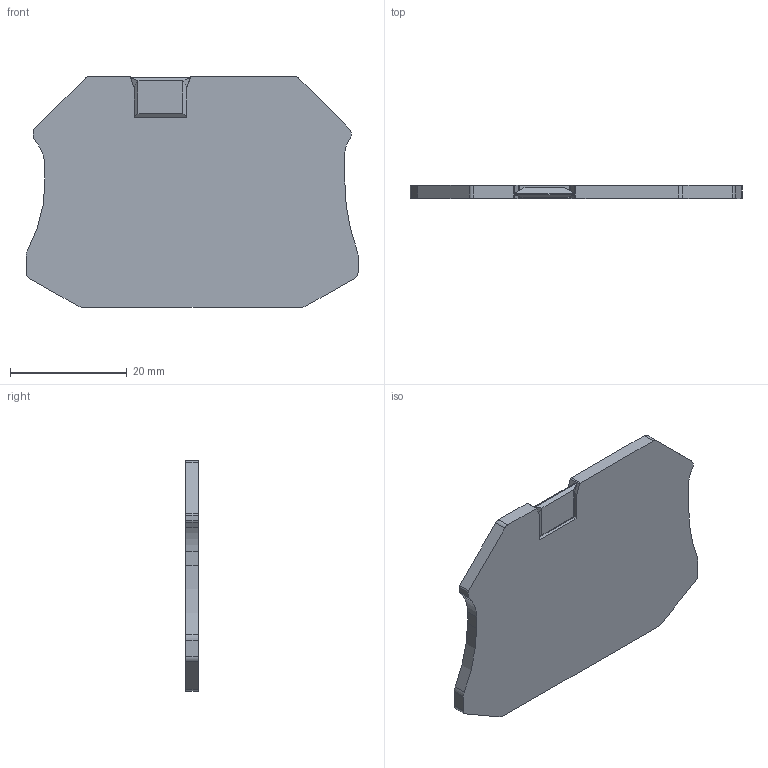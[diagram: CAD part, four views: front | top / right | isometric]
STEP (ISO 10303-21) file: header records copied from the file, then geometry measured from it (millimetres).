
FILE_DESCRIPTION( ('This file contains a STEP AP42 implementation' ,'as created by ZW3D STEP Interface translator.') ,'2;1' );
FILE_NAME( 'D-RUT2.5-TWIN 傷啣-耀倰.stp' ,'231227.161759', (''), ('ZWCAD Software Co.'), 'Version 1.0', 'ZW3D to STEP translator', '' );
FILE_SCHEMA(('AUTOMOTIVE_DESIGN { 1 0 10303 214 1 1 1 1 }'));
Length unit declared in the file: millimetre
Products named in the file (2): 0; D-RUT2.5-TWIN  傷啣5.3
Bounding box: 56.8 x 2.2 x 39.5 mm (x, y, z)
Volume: 4348.6 mm3; surface area: 4418.8 mm2
Topology: 1 solids, 1 shells, 59 faces, 162 edges, 105 vertices
Faces by surface type: plane 38, cylinder 21
Entity records: 1951 total; most frequent: CARTESIAN_POINT 351, ORIENTED_EDGE 324, DIRECTION 312, EDGE_CURVE 162, VECTOR 116, LINE 116, VERTEX_POINT 105, AXIS2_PLACEMENT_3D 98
